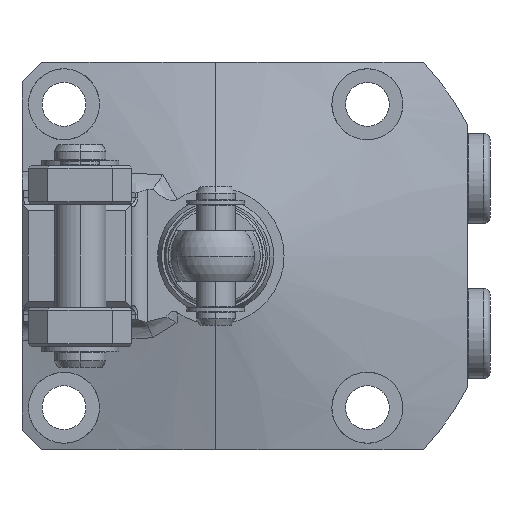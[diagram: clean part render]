
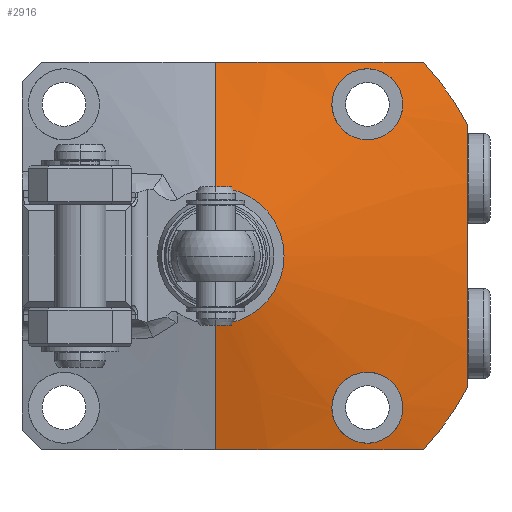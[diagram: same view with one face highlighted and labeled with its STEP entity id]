
A CAD part, left-side view. The second image highlights one B-rep face of the part: STEP entity #2916.
In plain terms, the highlighted conical face has half-angle 75 degrees and reference radius 44 mm.
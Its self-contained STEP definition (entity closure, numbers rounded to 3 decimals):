
#1408=B_SPLINE_CURVE_WITH_KNOTS('',3,(#11747,#11748,#11749,#11750,#11751,
#11752,#11753,#11754,#11755,#11756),.UNSPECIFIED.,.F.,.F.,(4,2,2,2,4),(0.,
0.25,0.5,0.75,1.),.UNSPECIFIED.);
#1409=B_SPLINE_CURVE_WITH_KNOTS('',3,(#11765,#11766,#11767,#11768,#11769,
#11770,#11771,#11772,#11773,#11774),.UNSPECIFIED.,.F.,.F.,(4,2,2,2,4),(0.,
0.25,0.5,0.75,1.),.UNSPECIFIED.);
#1416=B_SPLINE_CURVE_WITH_KNOTS('',3,(#11848,#11849,#11850,#11851),
 .UNSPECIFIED.,.F.,.F.,(4,4),(0.,1.),.UNSPECIFIED.);
#1417=B_SPLINE_CURVE_WITH_KNOTS('',3,(#11855,#11856,#11857,#11858,#11859),
 .UNSPECIFIED.,.F.,.F.,(4,1,4),(0.,0.5,1.),.UNSPECIFIED.);
#1418=B_SPLINE_CURVE_WITH_KNOTS('',3,(#11863,#11864,#11865,#11866),
 .UNSPECIFIED.,.F.,.F.,(4,4),(0.,1.),.UNSPECIFIED.);
#1419=B_SPLINE_CURVE_WITH_KNOTS('',3,(#11867,#11868,#11869,#11870,#11871,
#11872,#11873,#11874,#11875,#11876),.UNSPECIFIED.,.F.,.F.,(4,2,2,2,4),(0.,
0.25,0.5,0.75,1.),.UNSPECIFIED.);
#1420=B_SPLINE_CURVE_WITH_KNOTS('',3,(#11877,#11878,#11879,#11880,#11881,
#11882,#11883,#11884,#11885,#11886),.UNSPECIFIED.,.F.,.F.,(4,2,2,2,4),(0.,
0.25,0.5,0.75,1.),.UNSPECIFIED.);
#1617=FACE_BOUND('',#3746,.T.);
#1618=FACE_BOUND('',#3747,.T.);
#1619=FACE_BOUND('',#3748,.T.);
#1820=CONICAL_SURFACE('',#8133,44.,75.);
#2233=LINE('',#11791,#2580);
#2234=LINE('',#11846,#2581);
#2580=VECTOR('',#9822,1.);
#2581=VECTOR('',#9827,1.);
#2916=ADVANCED_FACE('',(#1617,#1618,#1619),#1820,.T.);
#3746=EDGE_LOOP('',(#5016,#5017,#5018,#5019,#5020,#5021,#5022,#5023));
#3747=EDGE_LOOP('',(#5024,#5025));
#3748=EDGE_LOOP('',(#5026,#5027));
#5016=ORIENTED_EDGE('',*,*,#6809,.F.);
#5017=ORIENTED_EDGE('',*,*,#6815,.T.);
#5018=ORIENTED_EDGE('',*,*,#6816,.T.);
#5019=ORIENTED_EDGE('',*,*,#6817,.F.);
#5020=ORIENTED_EDGE('',*,*,#6818,.T.);
#5021=ORIENTED_EDGE('',*,*,#6819,.F.);
#5022=ORIENTED_EDGE('',*,*,#6820,.T.);
#5023=ORIENTED_EDGE('',*,*,#6821,.F.);
#5024=ORIENTED_EDGE('',*,*,#6805,.T.);
#5025=ORIENTED_EDGE('',*,*,#6822,.T.);
#5026=ORIENTED_EDGE('',*,*,#6801,.T.);
#5027=ORIENTED_EDGE('',*,*,#6823,.T.);
#6054=VERTEX_POINT('',#11746);
#6055=VERTEX_POINT('',#11757);
#6058=VERTEX_POINT('',#11764);
#6059=VERTEX_POINT('',#11775);
#6061=VERTEX_POINT('',#11790);
#6062=VERTEX_POINT('',#11792);
#6067=VERTEX_POINT('',#11845);
#6068=VERTEX_POINT('',#11847);
#6069=VERTEX_POINT('',#11852);
#6070=VERTEX_POINT('',#11854);
#6071=VERTEX_POINT('',#11860);
#6072=VERTEX_POINT('',#11862);
#6801=EDGE_CURVE('',#6055,#6054,#1408,.T.);
#6805=EDGE_CURVE('',#6059,#6058,#1409,.T.);
#6809=EDGE_CURVE('',#6061,#6062,#2233,.T.);
#6815=EDGE_CURVE('',#6061,#6067,#7420,.T.);
#6816=EDGE_CURVE('',#6067,#6068,#2234,.T.);
#6817=EDGE_CURVE('',#6069,#6068,#1416,.T.);
#6818=EDGE_CURVE('',#6069,#6070,#7421,.T.);
#6819=EDGE_CURVE('',#6071,#6070,#1417,.T.);
#6820=EDGE_CURVE('',#6071,#6072,#7422,.T.);
#6821=EDGE_CURVE('',#6062,#6072,#1418,.T.);
#6822=EDGE_CURVE('',#6058,#6059,#1419,.T.);
#6823=EDGE_CURVE('',#6054,#6055,#1420,.T.);
#7420=CIRCLE('',#8130,10.598);
#7421=CIRCLE('',#8131,44.);
#7422=CIRCLE('',#8132,44.);
#8130=AXIS2_PLACEMENT_3D('',#11844,#9825,#9826);
#8131=AXIS2_PLACEMENT_3D('',#11853,#9828,#9829);
#8132=AXIS2_PLACEMENT_3D('',#11861,#9830,#9831);
#8133=AXIS2_PLACEMENT_3D('',#11887,#9832,#9833);
#9822=DIRECTION('',(0.259,0.,0.966));
#9825=DIRECTION('',(1.,0.,0.));
#9826=DIRECTION('',(0.,-1.,0.));
#9827=DIRECTION('',(0.259,0.,-0.966));
#9828=DIRECTION('',(-1.,0.,0.));
#9829=DIRECTION('',(0.,0.,1.));
#9830=DIRECTION('',(-1.,0.,0.));
#9831=DIRECTION('',(0.,0.,1.));
#9832=DIRECTION('',(1.,0.,0.));
#9833=DIRECTION('',(0.,0.,1.));
#11746=CARTESIAN_POINT('',(-22.908,-18.,-23.5));
#11747=CARTESIAN_POINT('',(-20.838,-29.,-23.5));
#11748=CARTESIAN_POINT('',(-20.592,-29.,-24.957));
#11749=CARTESIAN_POINT('',(-20.458,-28.393,-26.404));
#11750=CARTESIAN_POINT('',(-20.464,-26.313,-28.446));
#11751=CARTESIAN_POINT('',(-20.607,-24.846,-29.025));
#11752=CARTESIAN_POINT('',(-21.103,-21.959,-28.973));
#11753=CARTESIAN_POINT('',(-21.454,-20.559,-28.36));
#11754=CARTESIAN_POINT('',(-22.206,-18.576,-26.331));
#11755=CARTESIAN_POINT('',(-22.601,-18.,-24.945));
#11756=CARTESIAN_POINT('',(-22.908,-18.,-23.5));
#11757=CARTESIAN_POINT('',(-20.838,-29.,-23.5));
#11764=CARTESIAN_POINT('',(-22.908,-18.,23.5));
#11765=CARTESIAN_POINT('',(-20.838,-29.,23.5));
#11766=CARTESIAN_POINT('',(-21.084,-29.,22.04));
#11767=CARTESIAN_POINT('',(-21.432,-28.404,20.637));
#11768=CARTESIAN_POINT('',(-22.18,-26.414,18.626));
#11769=CARTESIAN_POINT('',(-22.582,-25.014,18.024));
#11770=CARTESIAN_POINT('',(-23.196,-22.164,17.978));
#11771=CARTESIAN_POINT('',(-23.404,-20.696,18.546));
#11772=CARTESIAN_POINT('',(-23.413,-18.599,20.603));
#11773=CARTESIAN_POINT('',(-23.216,-18.,22.052));
#11774=CARTESIAN_POINT('',(-22.908,-18.,23.5));
#11775=CARTESIAN_POINT('',(-20.838,-29.,23.5));
#11790=CARTESIAN_POINT('',(-28.,0.,10.598));
#11791=CARTESIAN_POINT('',(-19.05,0.,44.));
#11792=CARTESIAN_POINT('',(-22.801,0.,30.));
#11844=CARTESIAN_POINT('',(-28.,0.,0.));
#11845=CARTESIAN_POINT('',(-28.,0.,-10.598));
#11846=CARTESIAN_POINT('',(-19.05,0.,-44.));
#11847=CARTESIAN_POINT('',(-22.801,0.,-30.));
#11848=CARTESIAN_POINT('',(-19.05,-32.187,-30.));
#11849=CARTESIAN_POINT('',(-21.134,-21.555,-30.));
#11850=CARTESIAN_POINT('',(-22.801,-10.875,-30.));
#11851=CARTESIAN_POINT('',(-22.801,0.,-30.));
#11852=CARTESIAN_POINT('',(-19.05,-32.187,-30.));
#11853=CARTESIAN_POINT('',(-19.05,0.,0.));
#11854=CARTESIAN_POINT('',(-19.05,-39.,-20.372));
#11855=CARTESIAN_POINT('',(-19.05,-39.,20.372));
#11856=CARTESIAN_POINT('',(-19.892,-39.,13.581));
#11857=CARTESIAN_POINT('',(-20.887,-39.,0.));
#11858=CARTESIAN_POINT('',(-19.892,-39.,-13.581));
#11859=CARTESIAN_POINT('',(-19.05,-39.,-20.372));
#11860=CARTESIAN_POINT('',(-19.05,-39.,20.372));
#11861=CARTESIAN_POINT('',(-19.05,0.,0.));
#11862=CARTESIAN_POINT('',(-19.05,-32.187,30.));
#11863=CARTESIAN_POINT('',(-22.801,0.,30.));
#11864=CARTESIAN_POINT('',(-22.801,-10.875,30.));
#11865=CARTESIAN_POINT('',(-21.134,-21.555,30.));
#11866=CARTESIAN_POINT('',(-19.05,-32.187,30.));
#11867=CARTESIAN_POINT('',(-22.908,-18.,23.5));
#11868=CARTESIAN_POINT('',(-22.601,-18.,24.946));
#11869=CARTESIAN_POINT('',(-22.204,-18.579,26.334));
#11870=CARTESIAN_POINT('',(-21.456,-20.555,28.355));
#11871=CARTESIAN_POINT('',(-21.103,-21.961,28.972));
#11872=CARTESIAN_POINT('',(-20.609,-24.83,29.026));
#11873=CARTESIAN_POINT('',(-20.465,-26.301,28.455));
#11874=CARTESIAN_POINT('',(-20.458,-28.395,26.405));
#11875=CARTESIAN_POINT('',(-20.592,-29.,24.958));
#11876=CARTESIAN_POINT('',(-20.838,-29.,23.5));
#11877=CARTESIAN_POINT('',(-22.908,-18.,-23.5));
#11878=CARTESIAN_POINT('',(-23.216,-18.,-22.052));
#11879=CARTESIAN_POINT('',(-23.412,-18.601,-20.605));
#11880=CARTESIAN_POINT('',(-23.405,-20.682,-18.556));
#11881=CARTESIAN_POINT('',(-23.2,-22.146,-17.979));
#11882=CARTESIAN_POINT('',(-22.581,-25.02,-18.022));
#11883=CARTESIAN_POINT('',(-22.181,-26.411,-18.622));
#11884=CARTESIAN_POINT('',(-21.431,-28.408,-20.641));
#11885=CARTESIAN_POINT('',(-21.084,-29.,-22.04));
#11886=CARTESIAN_POINT('',(-20.838,-29.,-23.5));
#11887=CARTESIAN_POINT('',(-19.05,0.,0.));
